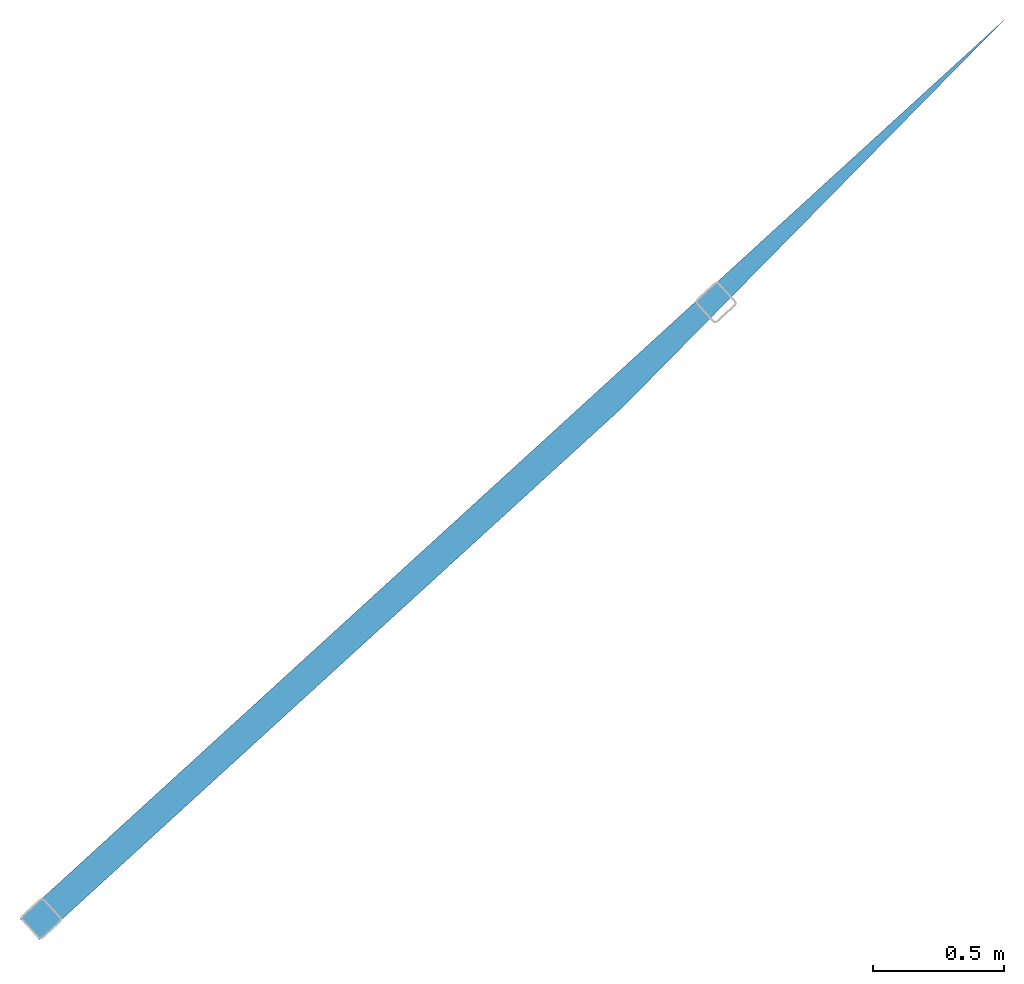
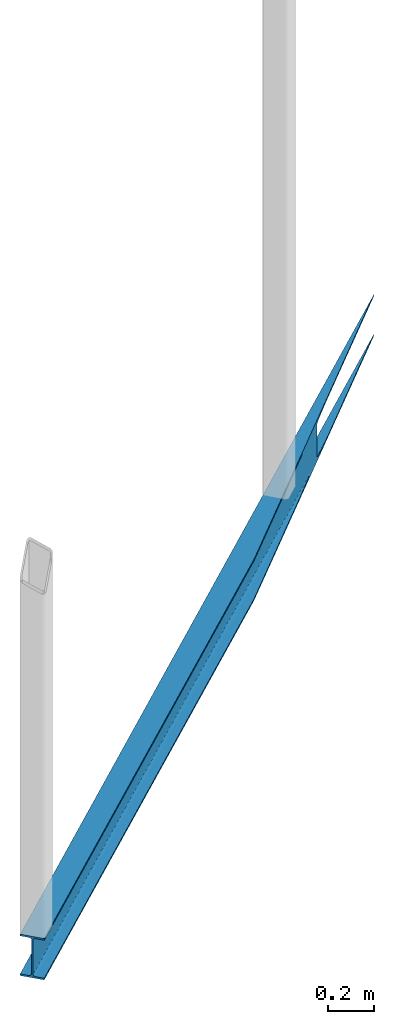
# One storey, part 2 of 2: 1 beam.
"""IFC2X3 building model written with IfcOpenShell, lengths in millimetres."""

from ifc_helpers import new_model, entity, si_unit, converted_unit, derived_unit, direction, frame, origin, origin_with_axes, place, context, subcontext, project, spatial, faceted_brep, type_object, element, save


model = new_model("IFC2X3")

# Units and contexts
model_context = context("Model", 3, precision=0.01, world=origin(), true_north=direction((6.12323399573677e-17, 1.0)))
plan_context = context("Plan", 3, precision=1e-05, world=origin_with_axes())
body_context = subcontext(model_context, "Body", "Model", "MODEL_VIEW")
ifc_project = project(units=[converted_unit("PLANEANGLEUNIT", "DEGREE", entity("IfcPositiveLengthMeasure", 0.0174532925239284), si_unit("PLANEANGLEUNIT", "RADIAN"), dimensions=[0, 0, 0, 0, 0, 0, 0]), si_unit("AREAUNIT", "SQUARE_METRE"), si_unit("LENGTHUNIT", "METRE", prefix="MILLI"), si_unit("MASSUNIT", "GRAM", prefix="KILO"), si_unit("POWERUNIT", "WATT"), si_unit("PRESSUREUNIT", "PASCAL", prefix="KILO"), si_unit("FORCEUNIT", "NEWTON", prefix="KILO"), si_unit("ELECTRICVOLTAGEUNIT", "VOLT"), si_unit("ELECTRICCURRENTUNIT", "AMPERE"), si_unit("THERMODYNAMICTEMPERATUREUNIT", "DEGREE_CELSIUS"), si_unit("TIMEUNIT", "SECOND"), si_unit("VOLUMEUNIT", "CUBIC_METRE"), derived_unit("LINEARVELOCITYUNIT", [(si_unit("LENGTHUNIT", "METRE"), 1), (si_unit("TIMEUNIT", "SECOND"), -1)]), derived_unit("VOLUMETRICFLOWRATEUNIT", [(si_unit("VOLUMEUNIT", "CUBIC_METRE"), 1), (si_unit("TIMEUNIT", "SECOND"), -1)]), derived_unit("THERMALTRANSMITTANCEUNIT", [(si_unit("POWERUNIT", "WATT"), 1), (si_unit("THERMODYNAMICTEMPERATUREUNIT", "KELVIN"), -1), (si_unit("AREAUNIT", "SQUARE_METRE"), -1)]), derived_unit("SOUNDPRESSUREUNIT", [(si_unit("PRESSUREUNIT", "PASCAL"), 1)])], contexts=[model_context, plan_context])

# Site, building, storey
site_placement = place(None, frame((0.0, 0.0, 0.0), z_axis=(0.0, 0.0, 1.0), x_axis=(0.214787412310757, -0.97666082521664, 0.0)))
site = spatial("IfcSite", under=ifc_project, at=site_placement, Name="Default", CompositionType="ELEMENT")
building_placement = place(site_placement, origin_with_axes())
building = spatial("IfcBuilding", under=site, at=building_placement, CompositionType="ELEMENT")
storey_placement = place(building_placement, frame((0.0, 0.0, 9300.0), z_axis=(0.0, 0.0, 1.0), x_axis=(1.0, 0.0, 0.0)))
storey = spatial("IfcBuildingStorey", under=building, at=storey_placement, Name="2. ETASJE", CompositionType="ELEMENT", Elevation=9299.99999999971)

# Beam
beam_type = type_object("IfcBeamType", Name="IPE-Beams:IPE220", PredefinedType="NOTDEFINED")
beam_placement = place(storey_placement, frame((-74427.8728271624, 311751.956241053, -240.0), z_axis=(0.0, 0.0, 1.0), x_axis=(0.50000000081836, -0.866025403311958, 0.0)))
element("IfcBeam", 1, at=beam_placement, inside=storey, type_object=beam_type, Name="IPE-Beams:IPE220", ObjectType="IPE-Beams:IPE220", context=body_context, shape_type="Brep", body=[
    faceted_brep([(22191.6919251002, 54.9999999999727, -220.0), (20120.1369830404, -54.9999999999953, -220.0), (25210.0000010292, -54.9999999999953, -220.0), (25210.0000010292, 54.9999999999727, -220.0), (22191.6919251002, 54.9999999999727, -210.8), (25210.0000010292, 54.9999999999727, -210.8), (21437.4576030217, 14.950000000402, -210.8), (25210.0000010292, 14.950000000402, -210.8), (21393.3695680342, 12.6089161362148, -210.569423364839), (25210.0000010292, 12.6089161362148, -210.569423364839), (21350.9758115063, 10.3577988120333, -209.886554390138), (25210.0000010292, 10.3577988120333, -209.886554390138), (21311.9055017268, 8.28315720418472, -208.777635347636), (25210.0000010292, 8.28315720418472, -208.777635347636), (21277.6600887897, 6.46471862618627, -207.285281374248), (25210.0000010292, 6.46471862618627, -207.285281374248), (21249.555604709, 4.97236465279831, -205.46684279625), (25210.0000010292, 4.97236465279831, -205.46684279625), (21228.6720890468, 3.8634456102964, -203.392201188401), (25210.0000010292, 3.8634456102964, -203.392201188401), (21215.8120835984, 3.18057663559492, -201.141083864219), (25210.0000010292, 3.18057663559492, -201.141083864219), (21211.4697911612, 2.9500000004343, -198.800000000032), (25210.0000010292, 2.9500000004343, -198.800000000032), (21211.4697911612, 2.9500000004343, -21.1999999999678), (25210.0000010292, 2.9500000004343, -21.1999999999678), (21215.8120835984, 3.18057663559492, -18.8589161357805), (25210.0000010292, 3.18057663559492, -18.8589161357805), (21228.6720890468, 3.8634456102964, -16.6077988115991), (25210.0000010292, 3.8634456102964, -16.6077988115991), (21249.555604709, 4.97236465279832, -14.5331572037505), (25210.0000010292, 4.97236465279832, -14.5331572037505), (21277.6600887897, 6.46471862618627, -12.714718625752), (25210.0000010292, 6.46471862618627, -12.714718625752), (21311.9055017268, 8.28315720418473, -11.2223646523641), (25210.0000010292, 8.28315720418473, -11.2223646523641), (21350.9758115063, 10.3577988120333, -10.1134456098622), (25210.0000010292, 10.3577988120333, -10.1134456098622), (21393.3695680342, 12.6089161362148, -9.43057663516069), (25210.0000010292, 12.6089161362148, -9.43057663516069), (21437.4576030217, 14.950000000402, -9.20000000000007), (25210.0000010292, 14.950000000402, -9.20000000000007), (22191.6919251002, 54.9999999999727, -9.20000000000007), (25210.0000010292, 54.9999999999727, -9.20000000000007), (22191.6919251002, 54.9999999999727, 0.0), (25210.0000010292, 54.9999999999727, 0.0), (20120.1369830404, -54.9999999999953, 0.0), (25210.0000010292, -54.9999999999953, 0.0), (20120.1369830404, -54.9999999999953, -9.20000000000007), (25210.0000010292, -54.9999999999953, -9.20000000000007), (20874.3713051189, -14.9500000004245, -9.20000000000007), (25210.0000010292, -14.9500000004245, -9.20000000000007), (20918.4593401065, -12.6089161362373, -9.43057663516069), (25210.0000010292, -12.6089161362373, -9.43057663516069), (20960.8530966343, -10.3577988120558, -10.1134456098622), (25210.0000010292, -10.3577988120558, -10.1134456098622), (20999.9234064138, -8.28315720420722, -11.2223646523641), (25210.0000010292, -8.28315720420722, -11.2223646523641), (21034.168819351, -6.46471862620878, -12.714718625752), (25210.0000010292, -6.46471862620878, -12.714718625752), (21062.2733034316, -4.97236465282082, -14.5331572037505), (25210.0000010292, -4.97236465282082, -14.5331572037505), (21083.1568190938, -3.86344561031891, -16.6077988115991), (25210.0000010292, -3.86344561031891, -16.6077988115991), (21096.0168245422, -3.18057663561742, -18.8589161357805), (25210.0000010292, -3.18057663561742, -18.8589161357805), (21100.3591169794, -2.9500000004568, -21.1999999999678), (25210.0000010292, -2.95000000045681, -21.1999999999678), (21100.3591169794, -2.95000000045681, -198.800000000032), (25210.0000010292, -2.95000000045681, -198.800000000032), (21096.0168245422, -3.18057663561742, -201.141083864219), (25210.0000010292, -3.18057663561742, -201.141083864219), (21083.1568190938, -3.86344561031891, -203.392201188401), (25210.0000010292, -3.86344561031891, -203.392201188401), (21062.2733034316, -4.97236465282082, -205.46684279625), (25210.0000010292, -4.97236465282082, -205.46684279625), (21034.168819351, -6.46471862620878, -207.285281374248), (25210.0000010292, -6.46471862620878, -207.285281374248), (20999.9234064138, -8.28315720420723, -208.777635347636), (25210.0000010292, -8.28315720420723, -208.777635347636), (20960.8530966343, -10.3577988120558, -209.886554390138), (25210.0000010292, -10.3577988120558, -209.886554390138), (20918.4593401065, -12.6089161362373, -210.569423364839), (25210.0000010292, -12.6089161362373, -210.569423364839), (20874.3713051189, -14.9500000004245, -210.8), (25210.0000010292, -14.9500000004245, -210.8), (20120.1369830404, -54.9999999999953, -210.8), (25210.0000010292, -54.9999999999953, -210.8)], [[[0, 1, 2, 3]], [[4, 0, 3, 5]], [[6, 4, 5, 7]], [[8, 6, 7, 9]], [[10, 8, 9, 11]], [[12, 10, 11, 13]], [[14, 12, 13, 15]], [[16, 14, 15, 17]], [[18, 16, 17, 19]], [[20, 18, 19, 21]], [[22, 20, 21, 23]], [[24, 22, 23, 25]], [[26, 24, 25, 27]], [[28, 26, 27, 29]], [[30, 28, 29, 31]], [[32, 30, 31, 33]], [[34, 32, 33, 35]], [[36, 34, 35, 37]], [[38, 36, 37, 39]], [[40, 38, 39, 41]], [[42, 40, 41, 43]], [[44, 42, 43, 45]], [[46, 44, 45, 47]], [[48, 46, 47, 49]], [[50, 48, 49, 51]], [[52, 50, 51, 53]], [[54, 52, 53, 55]], [[56, 54, 55, 57]], [[58, 56, 57, 59]], [[60, 58, 59, 61]], [[62, 60, 61, 63]], [[64, 62, 63, 65]], [[66, 64, 65, 67]], [[68, 66, 67, 69]], [[70, 68, 69, 71]], [[72, 70, 71, 73]], [[74, 72, 73, 75]], [[76, 74, 75, 77]], [[78, 76, 77, 79]], [[80, 78, 79, 81]], [[82, 80, 81, 83]], [[84, 82, 83, 85]], [[86, 84, 85, 87]], [[1, 86, 87, 2]], [[3, 2, 87, 85, 83, 81, 79, 77, 75, 73, 71, 69, 67, 65, 63, 61, 59, 57, 55, 53, 51, 49, 47, 45, 43, 41, 39, 37, 35, 33, 31, 29, 27, 25, 23, 21, 19, 17, 15, 13, 11, 9, 7, 5]], [[4, 6, 8, 10, 12, 14, 16, 18, 20, 22, 24, 26, 28, 30, 32, 34, 36, 38, 40, 42, 44, 46, 48, 50, 52, 54, 56, 58, 60, 62, 64, 66, 68, 70, 72, 74, 76, 78, 80, 82, 84, 86, 1, 0]]], orient=[[False], [False], [False], [False], [False], [False], [False], [False], [False], [False], [False], [False], [False], [False], [False], [False], [False], [False], [False], [False], [False], [False], [False], [False], [False], [False], [False], [False], [False], [False], [False], [False], [False], [False], [False], [False], [False], [False], [False], [False], [False], [False], [False], [False], [False], [False]]),
])

save(model, "model.ifc")
